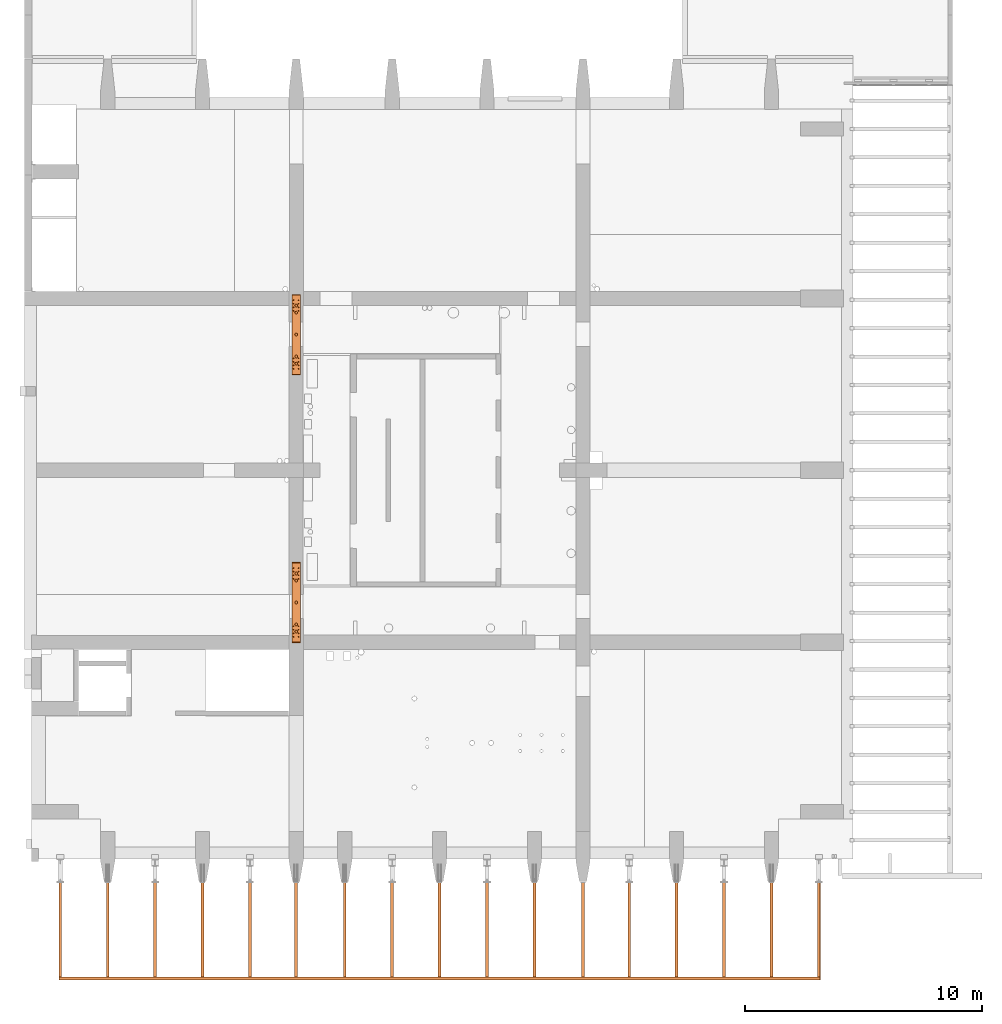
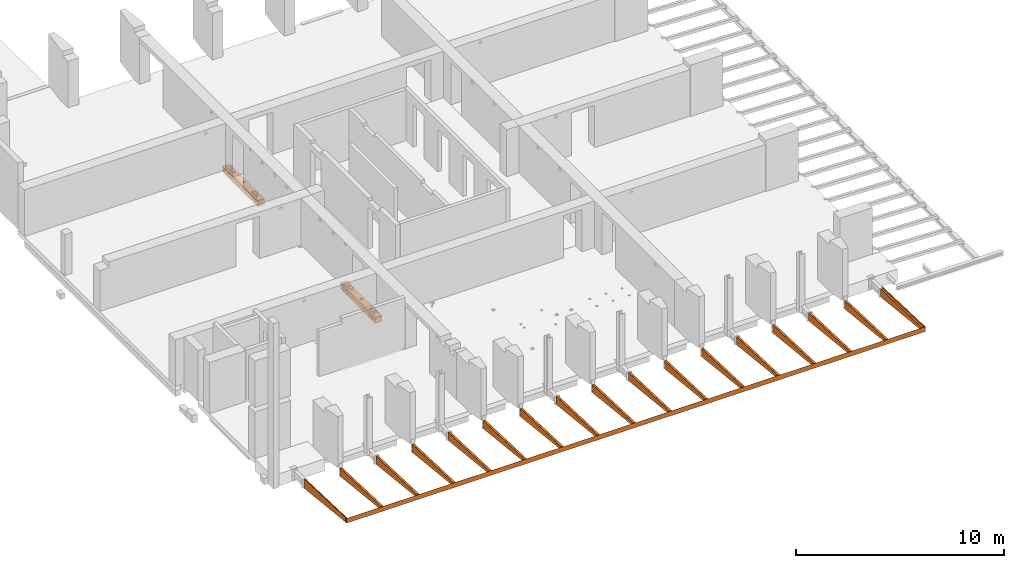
# One storey, part 24 of 27: 20 proxies.
"""IFC2X3 building model written with IfcOpenShell, lengths in millimetres."""

from ifc_helpers import new_model, entity, si_unit, converted_unit, derived_unit, direction, frame, frame_2d, origin, origin_2d_with_axis, place, context, subcontext, project, spatial, polyline, circle_curve, parameter, trimmed, segment, composite_curve, rectangle, circle, outline, extrude, source, transform, mapped, material, material_list, type_object, type_shapes, element, save


model = new_model("IFC2X3")

# Units and contexts
model_context = context("Model", 3, precision=0.01, world=origin(), true_north=direction((6.12303176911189e-17, 1.0)))
body_context = subcontext(model_context, "Body", "Model", "MODEL_VIEW")
ifc_project = project(units=[si_unit("LENGTHUNIT", "METRE", prefix="MILLI"), si_unit("AREAUNIT", "SQUARE_METRE"), si_unit("VOLUMEUNIT", "CUBIC_METRE"), converted_unit("PLANEANGLEUNIT", "DEGREE", entity("IfcRatioMeasure", 0.0174532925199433), si_unit("PLANEANGLEUNIT", "RADIAN"), dimensions=[0, 0, 0, 0, 0, 0, 0]), si_unit("MASSUNIT", "GRAM", prefix="KILO"), derived_unit("MASSDENSITYUNIT", [(si_unit("MASSUNIT", "GRAM", prefix="KILO"), 1), (si_unit("LENGTHUNIT", "METRE"), -3)]), si_unit("TIMEUNIT", "SECOND"), si_unit("FREQUENCYUNIT", "HERTZ"), si_unit("THERMODYNAMICTEMPERATUREUNIT", "DEGREE_CELSIUS"), derived_unit("THERMALTRANSMITTANCEUNIT", [(si_unit("MASSUNIT", "GRAM", prefix="KILO"), 1), (si_unit("THERMODYNAMICTEMPERATUREUNIT", "KELVIN"), -1), (si_unit("TIMEUNIT", "SECOND"), -3)]), derived_unit("VOLUMETRICFLOWRATEUNIT", [(si_unit("LENGTHUNIT", "METRE"), 3), (si_unit("TIMEUNIT", "SECOND"), -1)]), si_unit("ELECTRICCURRENTUNIT", "AMPERE"), si_unit("ELECTRICVOLTAGEUNIT", "VOLT"), si_unit("POWERUNIT", "WATT"), si_unit("FORCEUNIT", "NEWTON", prefix="KILO"), si_unit("ILLUMINANCEUNIT", "LUX"), si_unit("LUMINOUSFLUXUNIT", "LUMEN"), si_unit("LUMINOUSINTENSITYUNIT", "CANDELA"), derived_unit("USERDEFINED", [(si_unit("MASSUNIT", "GRAM", prefix="KILO"), -1), (si_unit("LENGTHUNIT", "METRE"), -2), (si_unit("TIMEUNIT", "SECOND"), 3), (si_unit("LUMINOUSFLUXUNIT", "LUMEN"), 1)]), derived_unit("LINEARVELOCITYUNIT", [(si_unit("LENGTHUNIT", "METRE"), 1), (si_unit("TIMEUNIT", "SECOND"), -1)]), si_unit("PRESSUREUNIT", "PASCAL"), derived_unit("USERDEFINED", [(si_unit("LENGTHUNIT", "METRE"), -2), (si_unit("MASSUNIT", "GRAM", prefix="KILO"), 1), (si_unit("TIMEUNIT", "SECOND"), -2)])], contexts=[model_context])

# Site, building, storey
site_placement = place(None, origin())
site = spatial("IfcSite", under=ifc_project, at=site_placement, Name="Default", CompositionType="ELEMENT")
building_placement = place(site_placement, origin())
building = spatial("IfcBuilding", under=site, at=building_placement, Name="niet gebruiken", CompositionType="ELEMENT")
storey_placement = place(building_placement, frame((0.0, 0.0, 6000.0)))
storey = spatial("IfcBuildingStorey", under=building, at=storey_placement, Name="01 eerste verdieping", CompositionType="ELEMENT", Elevation=6000.0)

# Proxies
building_element_proxy_type_1 = type_object("IfcBuildingElementProxyType", Name="3350x360x360", PredefinedType="NOTDEFINED")
shared_shape_1 = source(origin(), body_context, "Body", "SweptSolid", [
    extrude(circle(Radius=20.0, at=frame_2d((0.0, -3.38395977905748e-14), x_axis=(1.0, 0.0))), frame((-1150.0, 105.0, 430.0)), (0.0, 0.0, 1.0), 9.99999999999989),
    extrude(circle(Radius=9.5, at=frame_2d((0.0, -1.69197988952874e-14), x_axis=(1.0, 0.0))), frame((-1150.0, 105.0, 360.0)), (0.0, 0.0, 1.0), 69.9999999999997),
    extrude(circle(Radius=20.0, at=frame_2d((0.0, -3.38395977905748e-14), x_axis=(1.0, 0.0))), frame((-1150.0, -105.0, 430.0)), (0.0, 0.0, 1.0), 9.99999999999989),
    extrude(circle(Radius=9.5, at=frame_2d((0.0, -1.69197988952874e-14), x_axis=(1.0, 0.0))), frame((-1150.0, -105.0, 360.0)), (0.0, 0.0, 1.0), 69.9999999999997),
    extrude(circle(Radius=20.0, at=frame_2d((0.0, -3.38395977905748e-14), x_axis=(1.0, 0.0))), frame((-1300.0, 105.0, 430.0)), (0.0, 0.0, 1.0), 9.99999999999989),
    extrude(circle(Radius=9.5, at=frame_2d((0.0, -1.69197988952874e-14), x_axis=(1.0, 0.0))), frame((-1300.0, 105.0, 360.0)), (0.0, 0.0, 1.0), 69.9999999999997),
    extrude(circle(Radius=20.0, at=frame_2d((0.0, -3.38395977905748e-14), x_axis=(1.0, 0.0))), frame((-1300.0, -105.0, 430.0)), (0.0, 0.0, 1.0), 9.99999999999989),
    extrude(circle(Radius=9.5, at=frame_2d((0.0, -1.69197988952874e-14), x_axis=(1.0, 0.0))), frame((-1300.0, -105.0, 360.0)), (0.0, 0.0, 1.0), 69.9999999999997),
    extrude(circle(Radius=20.0, at=frame_2d((0.0, -3.38395977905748e-14), x_axis=(1.0, 0.0))), frame((-1000.0, 105.0, 430.0)), (0.0, 0.0, 1.0), 9.99999999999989),
    extrude(circle(Radius=9.5, at=frame_2d((0.0, -1.69197988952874e-14), x_axis=(1.0, 0.0))), frame((-1000.0, 105.0, 360.0)), (0.0, 0.0, 1.0), 69.9999999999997),
    extrude(circle(Radius=20.0, at=frame_2d((0.0, -3.38395977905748e-14), x_axis=(1.0, 0.0))), frame((-1000.0, -105.0, 430.0)), (0.0, 0.0, 1.0), 9.99999999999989),
    extrude(circle(Radius=9.5, at=frame_2d((0.0, -1.69197988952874e-14), x_axis=(1.0, 0.0))), frame((-1000.0, -105.0, 360.0)), (0.0, 0.0, 1.0), 69.9999999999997),
    extrude(circle(Radius=20.0, at=frame_2d((0.0, -3.38395977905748e-14), x_axis=(1.0, 0.0))), frame((1150.0, 105.0, 430.0)), (0.0, 0.0, 1.0), 9.99999999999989),
    extrude(circle(Radius=9.5, at=frame_2d((0.0, -1.69197988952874e-14), x_axis=(1.0, 0.0))), frame((1150.0, 105.0, 360.0)), (0.0, 0.0, 1.0), 69.9999999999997),
    extrude(circle(Radius=20.0, at=frame_2d((0.0, -3.38395977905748e-14), x_axis=(1.0, 0.0))), frame((1150.0, -105.0, 430.0)), (0.0, 0.0, 1.0), 9.99999999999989),
    extrude(circle(Radius=9.5, at=frame_2d((0.0, -1.69197988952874e-14), x_axis=(1.0, 0.0))), frame((1150.0, -105.0, 360.0)), (0.0, 0.0, 1.0), 69.9999999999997),
    extrude(circle(Radius=20.0, at=frame_2d((0.0, -3.38395977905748e-14), x_axis=(1.0, 0.0))), frame((1300.0, 105.0, 430.0)), (0.0, 0.0, 1.0), 9.99999999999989),
    extrude(circle(Radius=9.5, at=frame_2d((0.0, -1.69197988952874e-14), x_axis=(1.0, 0.0))), frame((1300.0, 105.0, 360.0)), (0.0, 0.0, 1.0), 69.9999999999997),
    extrude(circle(Radius=20.0, at=frame_2d((0.0, -3.38395977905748e-14), x_axis=(1.0, 0.0))), frame((1300.0, -105.0, 430.0)), (0.0, 0.0, 1.0), 9.99999999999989),
    extrude(circle(Radius=9.5, at=frame_2d((0.0, -1.69197988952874e-14), x_axis=(1.0, 0.0))), frame((1300.0, -105.0, 360.0)), (0.0, 0.0, 1.0), 69.9999999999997),
    extrude(circle(Radius=20.0, at=frame_2d((0.0, -3.38395977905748e-14), x_axis=(1.0, 0.0))), frame((1000.0, 105.0, 430.0)), (0.0, 0.0, 1.0), 9.99999999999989),
    extrude(circle(Radius=9.5, at=frame_2d((0.0, -1.69197988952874e-14), x_axis=(1.0, 0.0))), frame((1000.0, 105.0, 360.0)), (0.0, 0.0, 1.0), 69.9999999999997),
    extrude(circle(Radius=20.0, at=frame_2d((0.0, -3.38395977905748e-14), x_axis=(1.0, 0.0))), frame((1000.0, -105.0, 430.0)), (0.0, 0.0, 1.0), 9.99999999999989),
    extrude(circle(Radius=9.5, at=frame_2d((0.0, -1.69197988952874e-14), x_axis=(1.0, 0.0))), frame((1000.0, -105.0, 360.0)), (0.0, 0.0, 1.0), 69.9999999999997),
    extrude(circle(Radius=20.0, at=frame_2d((0.0, -3.38395977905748e-14), x_axis=(1.0, 0.0))), frame((1450.0, 105.0, 430.0)), (0.0, 0.0, 1.0), 9.99999999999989),
    extrude(circle(Radius=9.5, at=frame_2d((0.0, -1.69197988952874e-14), x_axis=(1.0, 0.0))), frame((1450.0, 105.0, 360.0)), (0.0, 0.0, 1.0), 69.9999999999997),
    extrude(circle(Radius=20.0, at=frame_2d((0.0, -3.38395977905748e-14), x_axis=(1.0, 0.0))), frame((1450.0, -105.0, 430.0)), (0.0, 0.0, 1.0), 9.99999999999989),
    extrude(circle(Radius=9.5, at=frame_2d((0.0, -1.69197988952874e-14), x_axis=(1.0, 0.0))), frame((1450.0, -105.0, 360.0)), (0.0, 0.0, 1.0), 69.9999999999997),
    extrude(circle(Radius=20.0, at=frame_2d((0.0, -3.38395977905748e-14), x_axis=(1.0, 0.0))), frame((-1450.0, 105.0, 430.0)), (0.0, 0.0, 1.0), 9.99999999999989),
    extrude(circle(Radius=9.5, at=frame_2d((0.0, -1.69197988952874e-14), x_axis=(1.0, 0.0))), frame((-1450.0, 105.0, 360.0)), (0.0, 0.0, 1.0), 69.9999999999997),
    extrude(circle(Radius=20.0, at=frame_2d((0.0, -3.38395977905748e-14), x_axis=(1.0, 0.0))), frame((-1450.0, -105.0, 430.0)), (0.0, 0.0, 1.0), 9.99999999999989),
    extrude(circle(Radius=9.5, at=frame_2d((0.0, -1.69197988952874e-14), x_axis=(1.0, 0.0))), frame((-1450.0, -105.0, 360.0)), (0.0, 0.0, 1.0), 69.9999999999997),
    extrude(rectangle(XDim=25.0000000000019, YDim=359.999999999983, at=origin_2d_with_axis()), frame((1687.49999999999, 0.0, 20.0), z_axis=(0.0, 0.0, 1.0), x_axis=(-1.0, 0.0, 0.0)), (0.0, 0.0, 1.0), 319.999999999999),
    extrude(rectangle(XDim=24.9999999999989, YDim=359.999999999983, at=frame_2d((-1.35891298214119e-13, 0.0), x_axis=(1.0, 0.0))), frame((-1687.50000000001, 0.0, 20.0), z_axis=(0.0, 0.0, 1.0), x_axis=(-1.0, 0.0, 0.0)), (0.0, 0.0, 1.0), 319.999999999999),
    extrude(outline(polyline([(-1675.0, -180.0), (1675.0, -180.0), (1675.0, 180.0), (-1675.0, 180.0), (-1675.0, -180.0)]), holes=[composite_curve([segment(trimmed(circle_curve(frame_2d((1225.0, 0.0), x_axis=(1.0, 0.0)), 60.0), [parameter(180.0)], [parameter(360.0)], True, "PARAMETER"), False, "CONTINUOUS"), segment(trimmed(circle_curve(frame_2d((1225.0, 0.0), x_axis=(1.0, 0.0)), 60.0), [parameter(3.56222124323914e-13)], [parameter(180.0)], True, "PARAMETER"), False, "CONTINUOUS")], self_intersect=False), composite_curve([segment(trimmed(circle_curve(frame_2d((925.0, 0.0), x_axis=(1.0, 0.0)), 60.0), [parameter(180.0)], [parameter(360.0)], True, "PARAMETER"), False, "CONTINUOUS"), segment(trimmed(circle_curve(frame_2d((925.0, 0.0), x_axis=(1.0, 0.0)), 60.0), [parameter(3.56222124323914e-13)], [parameter(180.0)], True, "PARAMETER"), False, "CONTINUOUS")], self_intersect=False), composite_curve([segment(trimmed(circle_curve(frame_2d((-925.0, 0.0), x_axis=(1.0, 0.0)), 60.0), [parameter(180.0)], [parameter(360.0)], True, "PARAMETER"), False, "CONTINUOUS"), segment(trimmed(circle_curve(frame_2d((-925.0, 0.0), x_axis=(1.0, 0.0)), 60.0), [parameter(3.56222124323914e-13)], [parameter(180.0)], True, "PARAMETER"), False, "CONTINUOUS")], self_intersect=False), composite_curve([segment(trimmed(circle_curve(frame_2d((-1225.0, 0.0), x_axis=(1.0, 0.0)), 60.0), [parameter(180.0)], [parameter(360.0)], True, "PARAMETER"), False, "CONTINUOUS"), segment(trimmed(circle_curve(frame_2d((-1225.0, 0.0), x_axis=(1.0, 0.0)), 60.0), [parameter(3.56222124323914e-13)], [parameter(180.0)], True, "PARAMETER"), False, "CONTINUOUS")], self_intersect=False), composite_curve([segment(trimmed(circle_curve(origin_2d_with_axis(), 60.0), [parameter(180.0)], [parameter(360.0)], True, "PARAMETER"), False, "CONTINUOUS"), segment(trimmed(circle_curve(origin_2d_with_axis(), 60.0), [parameter(3.56222124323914e-13)], [parameter(180.0)], True, "PARAMETER"), False, "CONTINUOUS")], self_intersect=False)]), frame((0.0, 0.0, 320.0), z_axis=(0.0, 0.0, 1.0), x_axis=(-1.0, 0.0, 0.0)), (0.0, 0.0, 1.0), 40.0),
    extrude(rectangle(XDim=3350.0, YDim=359.999999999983, at=origin_2d_with_axis()), frame((0.0, 0.0, 0.0), z_axis=(0.0, 0.0, 1.0), x_axis=(-1.0, 0.0, 0.0)), (0.0, 0.0, 1.0), 40.0000000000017),
    extrude(rectangle(XDim=24.9999999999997, YDim=100.0, at=origin_2d_with_axis()), frame((1375.0, 130.0, 40.0), z_axis=(0.0, 0.0, 1.0), x_axis=(-1.0, 0.0, 0.0)), (0.0, 0.0, 1.0), 280.000000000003),
    extrude(rectangle(XDim=25.0, YDim=100.0, at=frame_2d((-1.35891298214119e-13, 0.0), x_axis=(1.0, 0.0))), frame((1075.0, 130.0, 40.0), z_axis=(0.0, 0.0, 1.0), x_axis=(-1.0, 0.0, 0.0)), (0.0, 0.0, 1.0), 280.000000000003),
    extrude(rectangle(XDim=25.0, YDim=100.0, at=frame_2d((-1.35891298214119e-13, 0.0), x_axis=(1.0, 0.0))), frame((1075.0, -130.0, 40.0), z_axis=(0.0, 0.0, 1.0), x_axis=(-1.0, 0.0, 0.0)), (0.0, 0.0, 1.0), 280.000000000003),
    extrude(rectangle(XDim=24.9999999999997, YDim=100.0, at=origin_2d_with_axis()), frame((1375.0, -130.0, 40.0), z_axis=(0.0, 0.0, 1.0), x_axis=(-1.0, 0.0, 0.0)), (0.0, 0.0, 1.0), 280.000000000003),
    extrude(rectangle(XDim=25.0, YDim=100.0, at=frame_2d((-1.35891298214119e-13, 0.0), x_axis=(1.0, 0.0))), frame((-1075.0, 130.0, 40.0), z_axis=(0.0, 0.0, 1.0), x_axis=(-1.0, 0.0, 0.0)), (0.0, 0.0, 1.0), 279.999999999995),
    extrude(rectangle(XDim=24.9999999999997, YDim=100.0, at=origin_2d_with_axis()), frame((-1375.0, 130.0, 40.0), z_axis=(0.0, 0.0, 1.0), x_axis=(-1.0, 0.0, 0.0)), (0.0, 0.0, 1.0), 279.999999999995),
    extrude(rectangle(XDim=24.9999999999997, YDim=100.0, at=origin_2d_with_axis()), frame((-1375.0, -130.0, 40.0), z_axis=(0.0, 0.0, 1.0), x_axis=(-1.0, 0.0, 0.0)), (0.0, 0.0, 1.0), 279.999999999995),
    extrude(rectangle(XDim=25.0, YDim=100.0, at=frame_2d((-1.35891298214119e-13, 0.0), x_axis=(1.0, 0.0))), frame((-1075.0, -130.0, 40.0), z_axis=(0.0, 0.0, 1.0), x_axis=(-1.0, 0.0, 0.0)), (0.0, 0.0, 1.0), 279.999999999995),
    extrude(rectangle(XDim=3350.0, YDim=29.9999999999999, at=origin_2d_with_axis()), frame((0.0, -65.0, 40.0), z_axis=(0.0, 0.0, 1.0), x_axis=(-1.0, 0.0, 0.0)), (0.0, 0.0, 1.0), 279.999999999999),
    extrude(rectangle(XDim=3350.0, YDim=29.9999999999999, at=origin_2d_with_axis()), frame((0.0, 65.0, 40.0), z_axis=(0.0, 0.0, 1.0), x_axis=(-1.0, 0.0, 0.0)), (0.0, 0.0, 1.0), 279.999999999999),
])
type_shapes(building_element_proxy_type_1, [shared_shape_1])
for number, where, z_axis, x_axis in (
    (1, (135700.0, 23228.0, -530.0), (0.0, 0.0, 1.0), (0.0, 1.0, 0.0)),
    (2, (135700.0, 11925.0, -530.0), (0.0, 0.0, 1.0), (0.0, 1.0, 0.0)),
):
    element("IfcBuildingElementProxy", number, at=place(storey_placement, frame(where, z_axis=z_axis, x_axis=x_axis)), inside=storey, type_object=building_element_proxy_type_1, Name="NLRS_28.11_SF_UN_stalen latei 1e_gen_BSc:3350x360x360", ObjectType="3350x360x360", context=body_context, shape_type="MappedRepresentation", body=[
        mapped(shared_shape_1, transform((0.0, 0.0, 0.0), scale=1.0)),
    ])
ifc_material_1 = material(Name="Default")
building_element_proxy_type_2 = type_object("IfcBuildingElementProxyType", Name="met void", PredefinedType="NOTDEFINED", material=ifc_material_1)
shared_shape_2 = source(origin(), body_context, "Body", "SweptSolid", [
    extrude(rectangle(XDim=120.0, YDim=9.99999999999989, at=origin_2d_with_axis()), frame((0.0, 3875.0, -130.0), z_axis=(0.0, 0.0, 1.0), x_axis=(-1.0, 0.0, 0.0)), (0.0, 0.0, 1.0), 179.945141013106),
    extrude(outline(composite_curve([segment(polyline([(-169.945094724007, -1144.28571428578), (36.1960830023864, -1144.28571428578)]), True, "CONTINUOUS"), segment(trimmed(circle_curve(frame_2d((96.1960830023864, -1144.28571428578), x_axis=(0.0, 1.0)), 60.0), [parameter(4.57999874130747e-13)], [parameter(90.0000000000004)], True, "PARAMETER"), False, "CONTINUOUS"), segment(trimmed(circle_curve(frame_2d((96.1960830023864, -1144.28571428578), x_axis=(0.0, 1.0)), 60.0), [parameter(269.999999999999)], [parameter(360.0)], True, "PARAMETER"), False, "CONTINUOUS"), segment(polyline([(156.196083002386, -1144.28571428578), (308.915916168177, -1144.28571428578)]), True, "CONTINUOUS"), segment(polyline([(308.915916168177, -1144.28571428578), (-118.803916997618, 2830.71428571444)]), True, "CONTINUOUS"), segment(polyline([(-118.803916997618, 2830.71428571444), (-308.755153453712, 2830.71428571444)]), True, "CONTINUOUS"), segment(polyline([(-308.755153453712, 2830.71428571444), (-169.945094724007, -1144.28571428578)]), True, "CONTINUOUS")], self_intersect=False)), frame((-60.0, 1039.28571428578, -248.803916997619), z_axis=(1.0, 0.0, 0.0), x_axis=(0.0, 0.0, -1.0)), (0.0, 0.0, 1.0), 9.99999999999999),
    extrude(outline(composite_curve([segment(polyline([(-169.945094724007, -1144.28571428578), (36.1960830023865, -1144.28571428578)]), True, "CONTINUOUS"), segment(trimmed(circle_curve(frame_2d((96.1960830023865, -1144.28571428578), x_axis=(0.0, 1.0)), 60.0), [parameter(4.07110999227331e-13)], [parameter(90.0000000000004)], True, "PARAMETER"), False, "CONTINUOUS"), segment(trimmed(circle_curve(frame_2d((96.1960830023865, -1144.28571428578), x_axis=(0.0, 1.0)), 60.0), [parameter(269.999999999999)], [parameter(360.0)], True, "PARAMETER"), False, "CONTINUOUS"), segment(polyline([(156.196083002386, -1144.28571428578), (308.915916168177, -1144.28571428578)]), True, "CONTINUOUS"), segment(polyline([(308.915916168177, -1144.28571428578), (-118.803916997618, 2830.71428571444)]), True, "CONTINUOUS"), segment(polyline([(-118.803916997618, 2830.71428571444), (-308.755153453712, 2830.71428571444)]), True, "CONTINUOUS"), segment(polyline([(-308.755153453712, 2830.71428571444), (-169.945094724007, -1144.28571428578)]), True, "CONTINUOUS")], self_intersect=False)), frame((50.0, 1039.28571428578, -248.803916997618), z_axis=(1.0, 0.0, 0.0), x_axis=(0.0, 0.0, -1.0)), (0.0, 0.0, 1.0), 9.99999999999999),
    extrude(outline(polyline([(203.802191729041, -1987.50000000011), (223.917641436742, -1987.50000000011), (-203.802191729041, 1987.50000000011), (-223.917641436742, 1987.50000000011), (203.802191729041, -1987.50000000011)])), frame((-50.0, 1882.50000000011, -253.340392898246), z_axis=(1.0, 0.0, 0.0), x_axis=(0.0, 0.0, 1.0)), (0.0, 0.0, 1.0), 100.0),
    extrude(outline(polyline([(59.3989339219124, -1987.50000000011), (79.4111248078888, -1987.50000000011), (-59.3989339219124, 1987.50000000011), (-79.4111248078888, 1987.50000000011), (59.3989339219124, -1987.50000000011)])), frame((-50.0, 1882.50000000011, -29.4659837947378), z_axis=(1.0, 0.0, 0.0), x_axis=(0.0, 0.0, -1.0)), (0.0, 0.0, 1.0), 100.0),
])
type_shapes(building_element_proxy_type_2, [shared_shape_2])
for number, where, z_axis, x_axis in (
    (3, (147800.0, 0.0, -30.0), (0.0, 0.0, 1.0), (-1.0, 0.0, 0.0)),
    (4, (151750.0, 0.0, -30.0), (0.0, 0.0, 1.0), (-1.0, 0.0, 0.0)),
    (5, (155750.0, 0.0, -30.0), (0.0, 0.0, 1.0), (-1.0, 0.0, 0.0)),
    (6, (145750.0, 0.0, -30.0), (0.0, 0.0, 1.0), (-1.0, 0.0, 0.0)),
    (7, (141750.0, 0.0, -30.0), (0.0, 0.0, 1.0), (-1.0, 0.0, 0.0)),
    (8, (137750.0, 0.0, -30.0), (0.0, 0.0, 1.0), (-1.0, 0.0, 0.0)),
    (9, (135700.0, 0.0, -30.0), (0.0, 0.0, 1.0), (-1.0, 0.0, 0.0)),
    (10, (131750.0, 0.0, -30.0), (0.0, 0.0, 1.0), (-1.0, 0.0, 0.0)),
    (11, (127750.0, 0.0, -30.0), (0.0, 0.0, 1.0), (-1.0, 0.0, 0.0)),
):
    element("IfcBuildingElementProxy", number, at=place(storey_placement, frame(where, z_axis=z_axis, x_axis=x_axis)), inside=storey, type_object=building_element_proxy_type_2, material=ifc_material_1, Name="NLRS_28.11_SF_stalen ligger samengesteld 1e f_gen:met void", ObjectType="met void", context=body_context, shape_type="MappedRepresentation", body=[
        mapped(shared_shape_2, transform((0.0, 0.0, 0.0), scale=1.0)),
    ])
building_element_proxy_type_3 = type_object("IfcBuildingElementProxyType", Name="zonder void", PredefinedType="NOTDEFINED", material=ifc_material_1)
shared_shape_3 = source(origin(), body_context, "Body", "SweptSolid", [
    extrude(rectangle(XDim=120.0, YDim=9.99999999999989, at=origin_2d_with_axis()), frame((0.0, 3875.0, -130.0), z_axis=(0.0, 0.0, 1.0), x_axis=(-1.0, 0.0, 0.0)), (0.0, 0.0, 1.0), 179.945141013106),
    extrude(outline(polyline([(-2016.86101838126, -166.243424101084), (1981.08461102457, -166.243424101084), (2001.40652600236, 22.6176147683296), (-1965.63011864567, 309.869233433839), (-2016.86101838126, -166.243424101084)])), frame((-60.0, 1882.50000000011, -176.656854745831), z_axis=(1.0, 0.0, 0.0), x_axis=(0.0, 0.994260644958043, 0.106984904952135)), (0.0, 0.0, 1.0), 9.99999999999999),
    extrude(outline(polyline([(-97.7980324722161, -1987.50000000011), (381.062978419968, -1987.50000000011), (-46.6568547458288, 1987.50000000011), (-236.608091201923, 1987.50000000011), (-97.7980324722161, -1987.50000000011)])), frame((50.0, 1882.50000000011, -176.656854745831), z_axis=(1.0, 0.0, 0.0), x_axis=(0.0, 0.0, -1.0)), (0.0, 0.0, 1.0), 9.99999999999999),
    extrude(outline(polyline([(203.802191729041, -1987.50000000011), (223.917641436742, -1987.50000000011), (-203.802191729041, 1987.50000000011), (-223.917641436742, 1987.50000000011), (203.802191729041, -1987.50000000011)])), frame((-50.0, 1882.50000000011, -253.340392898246), z_axis=(1.0, 0.0, 0.0), x_axis=(0.0, 0.0, 1.0)), (0.0, 0.0, 1.0), 100.0),
    extrude(outline(polyline([(59.3989339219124, -1987.50000000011), (79.4111248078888, -1987.50000000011), (-59.3989339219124, 1987.50000000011), (-79.4111248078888, 1987.50000000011), (59.3989339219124, -1987.50000000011)])), frame((-50.0, 1882.50000000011, -29.4659837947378), z_axis=(1.0, 0.0, 0.0), x_axis=(0.0, 0.0, -1.0)), (0.0, 0.0, 1.0), 100.0),
])
type_shapes(building_element_proxy_type_3, [shared_shape_3])
for number, where, z_axis, x_axis in (
    (12, (153750.0, 0.0, -30.0), (0.0, 0.0, 1.0), (-1.0, 0.0, 0.0)),
    (13, (143750.0, 0.0, -30.0), (0.0, 0.0, 1.0), (-1.0, 0.0, 0.0)),
    (14, (139750.0, 0.0, -30.0), (0.0, 0.0, 1.0), (-1.0, 0.0, 0.0)),
    (15, (133750.0, 0.0, -30.0), (0.0, 0.0, 1.0), (-1.0, 0.0, 0.0)),
    (16, (129750.0, 0.0, -30.0), (0.0, 0.0, 1.0), (-1.0, 0.0, 0.0)),
    (17, (149750.0, 0.0, -30.0), (0.0, 0.0, 1.0), (-1.0, 0.0, 0.0)),
):
    element("IfcBuildingElementProxy", number, at=place(storey_placement, frame(where, z_axis=z_axis, x_axis=x_axis)), inside=storey, type_object=building_element_proxy_type_3, material=ifc_material_1, Name="NLRS_28.11_SF_stalen ligger samengesteld 1e f_gen:zonder void", ObjectType="zonder void", context=body_context, shape_type="MappedRepresentation", body=[
        mapped(shared_shape_3, transform((0.0, 0.0, 0.0), scale=1.0)),
    ])
building_element_proxy_type_4 = type_object("IfcBuildingElementProxyType", Name="links", PredefinedType="NOTDEFINED", material=ifc_material_1)
shared_shape_4 = source(origin(), body_context, "Body", "SweptSolid", [
    extrude(outline(polyline([(-2026.6686904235, -210.655131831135), (1981.33466383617, -210.655131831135), (2011.1753188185, 66.6679997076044), (-1965.84129223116, 354.642263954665), (-2026.6686904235, -210.655131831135)])), frame((50.0, 1887.50000000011, -131.450768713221), z_axis=(1.0, 0.0, 0.0), x_axis=(0.0, 0.994260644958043, 0.106984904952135)), (0.0, 0.0, 1.0), 9.99999999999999),
    extrude(rectangle(XDim=120.0, YDim=9.99999999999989, at=origin_2d_with_axis()), frame((0.0, 3875.0, -130.0), z_axis=(0.0, 0.0, 1.0), x_axis=(-1.0, 0.0, 0.0)), (0.0, 0.0, 1.0), 179.945141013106),
    extrude(outline(polyline([(-2016.86101838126, -166.243424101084), (1981.08461102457, -166.243424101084), (2001.40652600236, 22.6176147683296), (-1965.63011864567, 309.869233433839), (-2016.86101838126, -166.243424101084)])), frame((-60.0, 1882.50000000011, -176.656854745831), z_axis=(1.0, 0.0, 0.0), x_axis=(0.0, 0.994260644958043, 0.106984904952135)), (0.0, 0.0, 1.0), 9.99999999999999),
    extrude(outline(polyline([(203.802191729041, -1987.50000000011), (223.917641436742, -1987.50000000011), (-203.802191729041, 1987.50000000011), (-223.917641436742, 1987.50000000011), (203.802191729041, -1987.50000000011)])), frame((-50.0, 1882.50000000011, -253.340392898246), z_axis=(1.0, 0.0, 0.0), x_axis=(0.0, 0.0, 1.0)), (0.0, 0.0, 1.0), 100.0),
    extrude(outline(polyline([(59.3989339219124, -1987.50000000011), (79.4111248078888, -1987.50000000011), (-59.3989339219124, 1987.50000000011), (-79.4111248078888, 1987.50000000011), (59.3989339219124, -1987.50000000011)])), frame((-50.0, 1882.50000000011, -29.4659837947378), z_axis=(1.0, 0.0, 0.0), x_axis=(0.0, 0.0, -1.0)), (0.0, 0.0, 1.0), 100.0),
])
type_shapes(building_element_proxy_type_4, [shared_shape_4])
proxy_1_placement = place(storey_placement, frame((125750.0, 0.0, -30.0), z_axis=(0.0, 0.0, 1.0), x_axis=(-1.0, 0.0, 0.0)))
element("IfcBuildingElementProxy", 18, at=proxy_1_placement, inside=storey, type_object=building_element_proxy_type_4, material=ifc_material_1, Name="NLRS_28.11_SF_stalen ligger samengesteld 1e f_gen:links", ObjectType="links", context=body_context, shape_type="MappedRepresentation", body=[
    mapped(shared_shape_4, transform((0.0, 0.0, 0.0), scale=1.0)),
])
building_element_proxy_type_5 = type_object("IfcBuildingElementProxyType", Name="rechts", PredefinedType="NOTDEFINED", material=ifc_material_1)
shared_shape_5 = source(origin(), body_context, "Body", "SweptSolid", [
    extrude(outline(polyline([(-2026.6686904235, -210.655131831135), (1981.33466383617, -210.655131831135), (2011.1753188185, 66.6679997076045), (-1965.84129223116, 354.642263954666), (-2026.6686904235, -210.655131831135)])), frame((-60.0, 1887.50000000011, -131.450768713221), z_axis=(1.0, 0.0, 0.0), x_axis=(0.0, 0.994260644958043, 0.106984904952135)), (0.0, 0.0, 1.0), 9.99999999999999),
    extrude(rectangle(XDim=120.0, YDim=9.99999999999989, at=origin_2d_with_axis()), frame((0.0, 3875.0, -130.0), z_axis=(0.0, 0.0, 1.0), x_axis=(-1.0, 0.0, 0.0)), (0.0, 0.0, 1.0), 179.945141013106),
    extrude(outline(polyline([(-97.7980324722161, -1987.50000000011), (381.062978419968, -1987.50000000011), (-46.6568547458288, 1987.50000000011), (-236.608091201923, 1987.50000000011), (-97.7980324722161, -1987.50000000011)])), frame((50.0, 1882.50000000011, -176.656854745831), z_axis=(1.0, 0.0, 0.0), x_axis=(0.0, 0.0, -1.0)), (0.0, 0.0, 1.0), 9.99999999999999),
    extrude(outline(polyline([(203.802191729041, -1987.50000000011), (223.917641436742, -1987.50000000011), (-203.802191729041, 1987.50000000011), (-223.917641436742, 1987.50000000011), (203.802191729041, -1987.50000000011)])), frame((-50.0, 1882.50000000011, -253.340392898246), z_axis=(1.0, 0.0, 0.0), x_axis=(0.0, 0.0, 1.0)), (0.0, 0.0, 1.0), 100.0),
    extrude(outline(polyline([(59.3989339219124, -1987.50000000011), (79.4111248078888, -1987.50000000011), (-59.3989339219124, 1987.50000000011), (-79.4111248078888, 1987.50000000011), (59.3989339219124, -1987.50000000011)])), frame((-50.0, 1882.50000000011, -29.4659837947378), z_axis=(1.0, 0.0, 0.0), x_axis=(0.0, 0.0, -1.0)), (0.0, 0.0, 1.0), 100.0),
])
type_shapes(building_element_proxy_type_5, [shared_shape_5])
proxy_2_placement = place(storey_placement, frame((157750.0, 0.0, -30.0), z_axis=(0.0, 0.0, 1.0), x_axis=(-1.0, 0.0, 0.0)))
element("IfcBuildingElementProxy", 19, at=proxy_2_placement, inside=storey, type_object=building_element_proxy_type_5, material=ifc_material_1, Name="NLRS_28.11_SF_stalen ligger samengesteld 1e f_gen:rechts", ObjectType="rechts", context=body_context, shape_type="MappedRepresentation", body=[
    mapped(shared_shape_5, transform((0.0, 0.0, 0.0), scale=1.0)),
])
ifc_material_2 = material(Name="NLRS_h2_staal")
ifc_material_list_1 = material_list([ifc_material_2, ifc_material_1])
ifc_material_list_2 = material_list([ifc_material_2, ifc_material_1])
building_element_proxy_type_6 = type_object("IfcBuildingElementProxyType", Name="type1", PredefinedType="NOTDEFINED", material=ifc_material_list_2)
shared_shape_6 = source(origin(), body_context, "Body", "SweptSolid", [
    extrude(rectangle(XDim=9.99999999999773, YDim=120.0, at=frame_2d((0.0, 5.43565192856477e-13), x_axis=(1.0, 0.0))), frame((-16055.0, 3940.0, -130.0), z_axis=(0.0, 0.0, 1.0), x_axis=(-1.0, 0.0, 0.0)), (0.0, 0.0, 1.0), 280.0),
    extrude(rectangle(XDim=9.99999999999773, YDim=120.0, at=frame_2d((0.0, 5.43565192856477e-13), x_axis=(1.0, 0.0))), frame((16055.0, 3940.0, -130.0), z_axis=(0.0, 0.0, 1.0), x_axis=(-1.0, 0.0, 0.0)), (0.0, 0.0, 1.0), 280.0),
    extrude(rectangle(XDim=32100.0, YDim=100.0, at=frame_2d((0.0, -5.43565192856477e-13), x_axis=(1.0, 0.0))), frame((0.0, 3940.0, -50.0), z_axis=(0.0, 0.0, 1.0), x_axis=(-1.0, 0.0, 0.0)), (0.0, 0.0, 1.0), 20.0),
    extrude(rectangle(XDim=32100.0, YDim=100.0, at=frame_2d((0.0, -5.43565192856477e-13), x_axis=(1.0, 0.0))), frame((0.0, 3940.0, 30.0), z_axis=(0.0, 0.0, 1.0), x_axis=(-1.0, 0.0, 0.0)), (0.0, 0.0, 1.0), 20.0),
    extrude(rectangle(XDim=32100.0, YDim=9.99999999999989, at=origin_2d_with_axis()), frame((0.0, 3995.0, -130.0), z_axis=(0.0, 0.0, 1.0), x_axis=(-1.0, 0.0, 0.0)), (0.0, 0.0, 1.0), 280.0),
    extrude(rectangle(XDim=32100.0, YDim=9.99999999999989, at=origin_2d_with_axis()), frame((0.0, 3885.0, -130.0), z_axis=(0.0, 0.0, 1.0), x_axis=(-1.0, 0.0, 0.0)), (0.0, 0.0, 1.0), 180.0),
])
type_shapes(building_element_proxy_type_6, [shared_shape_6])
proxy_3_placement = place(storey_placement, frame((141750.0, 0.0, -30.0), z_axis=(0.0, 0.0, 1.0), x_axis=(-1.0, 0.0, 0.0)))
element("IfcBuildingElementProxy", 20, at=proxy_3_placement, inside=storey, type_object=building_element_proxy_type_6, material=ifc_material_list_1, Name="NLRS_28.11_SF_stalen ligger samengesteld ligger_gen:type1", ObjectType="type1", context=body_context, shape_type="MappedRepresentation", body=[
    mapped(shared_shape_6, transform((0.0, 0.0, 0.0), scale=1.0)),
])

save(model, "model.ifc")
